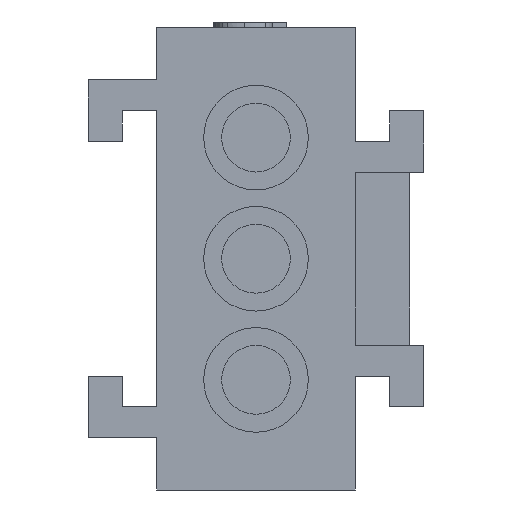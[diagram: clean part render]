
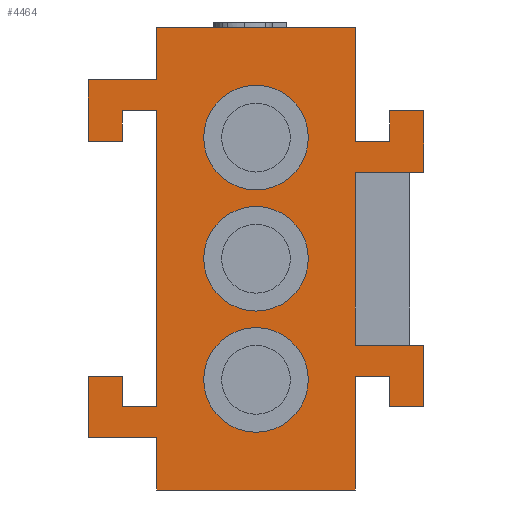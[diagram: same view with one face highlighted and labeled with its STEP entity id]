
A CAD part, front view. The second image highlights one B-rep face of the part: STEP entity #4464.
In plain terms, the highlighted planar face has unit normal (0, -1, 0).
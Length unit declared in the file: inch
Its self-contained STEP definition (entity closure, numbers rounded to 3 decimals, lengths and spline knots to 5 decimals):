
#342=FACE_BOUND('',#966,.T.);
#343=FACE_BOUND('',#967,.T.);
#344=FACE_BOUND('',#968,.T.);
#486=PLANE('',#4719);
#711=FACE_OUTER_BOUND('',#965,.T.);
#965=EDGE_LOOP('',(#4102,#4103,#4104,#4105,#4106,#4107,#4108,#4109,#4110,
#4111,#4112,#4113,#4114,#4115,#4116,#4117,#4118,#4119,#4120,#4121,#4122,
#4123,#4124,#4125,#4126,#4127,#4128,#4129));
#966=EDGE_LOOP('',(#4130));
#967=EDGE_LOOP('',(#4131));
#968=EDGE_LOOP('',(#4132));
#1236=LINE('',#7492,#1698);
#1249=LINE('',#7529,#1711);
#1253=LINE('',#7536,#1715);
#1254=LINE('',#7540,#1716);
#1258=LINE('',#7548,#1720);
#1261=LINE('',#7554,#1723);
#1264=LINE('',#7561,#1726);
#1268=LINE('',#7568,#1730);
#1271=LINE('',#7574,#1733);
#1274=LINE('',#7580,#1736);
#1277=LINE('',#7586,#1739);
#1280=LINE('',#7592,#1742);
#1289=LINE('',#7610,#1751);
#1293=LINE('',#7617,#1755);
#1296=LINE('',#7622,#1758);
#1297=LINE('',#7625,#1759);
#1300=LINE('',#7630,#1762);
#1302=LINE('',#7635,#1764);
#1306=LINE('',#7643,#1768);
#1309=LINE('',#7648,#1771);
#1311=LINE('',#7652,#1773);
#1314=LINE('',#7657,#1776);
#1316=LINE('',#7663,#1778);
#1319=LINE('',#7668,#1781);
#1321=LINE('',#7672,#1783);
#1323=LINE('',#7675,#1785);
#1324=LINE('',#7677,#1786);
#1422=LINE('',#7875,#1884);
#1698=VECTOR('',#5175,0.3937);
#1711=VECTOR('',#5214,0.3937);
#1715=VECTOR('',#5220,0.3937);
#1716=VECTOR('',#5223,0.3937);
#1720=VECTOR('',#5229,0.3937);
#1723=VECTOR('',#5234,0.3937);
#1726=VECTOR('',#5239,0.3937);
#1730=VECTOR('',#5245,0.3937);
#1733=VECTOR('',#5252,0.3937);
#1736=VECTOR('',#5257,0.3937);
#1739=VECTOR('',#5262,0.3937);
#1742=VECTOR('',#5267,0.3937);
#1751=VECTOR('',#5280,0.3937);
#1755=VECTOR('',#5284,0.3937);
#1758=VECTOR('',#5287,0.3937);
#1759=VECTOR('',#5290,0.3937);
#1762=VECTOR('',#5293,0.3937);
#1764=VECTOR('',#5297,0.3937);
#1768=VECTOR('',#5303,0.3937);
#1771=VECTOR('',#5308,0.3937);
#1773=VECTOR('',#5312,0.3937);
#1776=VECTOR('',#5317,0.3937);
#1778=VECTOR('',#5323,0.3937);
#1781=VECTOR('',#5328,0.3937);
#1783=VECTOR('',#5332,0.3937);
#1785=VECTOR('',#5336,0.3937);
#1786=VECTOR('',#5339,0.3937);
#1884=VECTOR('',#5509,0.3937);
#1918=CIRCLE('',#4563,0.095);
#1921=CIRCLE('',#4568,0.095);
#1924=CIRCLE('',#4573,0.095);
#1938=VERTEX_POINT('',#5635);
#1941=VERTEX_POINT('',#5644);
#1944=VERTEX_POINT('',#5653);
#2196=VERTEX_POINT('',#7489);
#2197=VERTEX_POINT('',#7491);
#2207=VERTEX_POINT('',#7526);
#2208=VERTEX_POINT('',#7528);
#2210=VERTEX_POINT('',#7534);
#2211=VERTEX_POINT('',#7538);
#2212=VERTEX_POINT('',#7539);
#2215=VERTEX_POINT('',#7547);
#2217=VERTEX_POINT('',#7553);
#2219=VERTEX_POINT('',#7559);
#2220=VERTEX_POINT('',#7560);
#2223=VERTEX_POINT('',#7573);
#2225=VERTEX_POINT('',#7579);
#2227=VERTEX_POINT('',#7585);
#2229=VERTEX_POINT('',#7591);
#2236=VERTEX_POINT('',#7609);
#2239=VERTEX_POINT('',#7615);
#2241=VERTEX_POINT('',#7620);
#2242=VERTEX_POINT('',#7624);
#2244=VERTEX_POINT('',#7629);
#2245=VERTEX_POINT('',#7633);
#2246=VERTEX_POINT('',#7634);
#2249=VERTEX_POINT('',#7642);
#2251=VERTEX_POINT('',#7651);
#2253=VERTEX_POINT('',#7661);
#2254=VERTEX_POINT('',#7662);
#2255=VERTEX_POINT('',#7667);
#2256=VERTEX_POINT('',#7671);
#2355=EDGE_CURVE('',#1938,#1938,#1918,.T.);
#2359=EDGE_CURVE('',#1941,#1941,#1921,.T.);
#2363=EDGE_CURVE('',#1944,#1944,#1924,.T.);
#2739=EDGE_CURVE('',#2196,#2197,#1236,.T.);
#2755=EDGE_CURVE('',#2208,#2207,#1249,.T.);
#2759=EDGE_CURVE('',#2210,#2207,#1253,.T.);
#2760=EDGE_CURVE('',#2211,#2212,#1254,.T.);
#2764=EDGE_CURVE('',#2215,#2211,#1258,.T.);
#2767=EDGE_CURVE('',#2217,#2215,#1261,.T.);
#2770=EDGE_CURVE('',#2219,#2220,#1264,.T.);
#2774=EDGE_CURVE('',#2212,#2219,#1268,.T.);
#2777=EDGE_CURVE('',#2223,#2208,#1271,.T.);
#2780=EDGE_CURVE('',#2225,#2223,#1274,.T.);
#2783=EDGE_CURVE('',#2227,#2225,#1277,.T.);
#2786=EDGE_CURVE('',#2229,#2227,#1280,.T.);
#2795=EDGE_CURVE('',#2217,#2236,#1289,.T.);
#2799=EDGE_CURVE('',#2239,#2196,#1293,.T.);
#2802=EDGE_CURVE('',#2241,#2220,#1296,.T.);
#2803=EDGE_CURVE('',#2229,#2242,#1297,.T.);
#2806=EDGE_CURVE('',#2197,#2244,#1300,.T.);
#2808=EDGE_CURVE('',#2245,#2246,#1302,.T.);
#2812=EDGE_CURVE('',#2249,#2245,#1306,.T.);
#2815=EDGE_CURVE('',#2236,#2249,#1309,.T.);
#2817=EDGE_CURVE('',#2251,#2239,#1311,.T.);
#2820=EDGE_CURVE('',#2246,#2251,#1314,.T.);
#2822=EDGE_CURVE('',#2253,#2254,#1316,.T.);
#2825=EDGE_CURVE('',#2255,#2253,#1319,.T.);
#2827=EDGE_CURVE('',#2256,#2255,#1321,.T.);
#2829=EDGE_CURVE('',#2244,#2256,#1323,.T.);
#2830=EDGE_CURVE('',#2254,#2210,#1324,.T.);
#2928=EDGE_CURVE('',#2242,#2241,#1422,.T.);
#4102=ORIENTED_EDGE('',*,*,#2739,.F.);
#4103=ORIENTED_EDGE('',*,*,#2799,.F.);
#4104=ORIENTED_EDGE('',*,*,#2817,.F.);
#4105=ORIENTED_EDGE('',*,*,#2820,.F.);
#4106=ORIENTED_EDGE('',*,*,#2808,.F.);
#4107=ORIENTED_EDGE('',*,*,#2812,.F.);
#4108=ORIENTED_EDGE('',*,*,#2815,.F.);
#4109=ORIENTED_EDGE('',*,*,#2795,.F.);
#4110=ORIENTED_EDGE('',*,*,#2767,.T.);
#4111=ORIENTED_EDGE('',*,*,#2764,.T.);
#4112=ORIENTED_EDGE('',*,*,#2760,.T.);
#4113=ORIENTED_EDGE('',*,*,#2774,.T.);
#4114=ORIENTED_EDGE('',*,*,#2770,.T.);
#4115=ORIENTED_EDGE('',*,*,#2802,.F.);
#4116=ORIENTED_EDGE('',*,*,#2928,.F.);
#4117=ORIENTED_EDGE('',*,*,#2803,.F.);
#4118=ORIENTED_EDGE('',*,*,#2786,.T.);
#4119=ORIENTED_EDGE('',*,*,#2783,.T.);
#4120=ORIENTED_EDGE('',*,*,#2780,.T.);
#4121=ORIENTED_EDGE('',*,*,#2777,.T.);
#4122=ORIENTED_EDGE('',*,*,#2755,.T.);
#4123=ORIENTED_EDGE('',*,*,#2759,.F.);
#4124=ORIENTED_EDGE('',*,*,#2830,.F.);
#4125=ORIENTED_EDGE('',*,*,#2822,.F.);
#4126=ORIENTED_EDGE('',*,*,#2825,.F.);
#4127=ORIENTED_EDGE('',*,*,#2827,.F.);
#4128=ORIENTED_EDGE('',*,*,#2829,.F.);
#4129=ORIENTED_EDGE('',*,*,#2806,.F.);
#4130=ORIENTED_EDGE('',*,*,#2355,.T.);
#4131=ORIENTED_EDGE('',*,*,#2359,.T.);
#4132=ORIENTED_EDGE('',*,*,#2363,.T.);
#4464=ADVANCED_FACE('',(#711,#342,#343,#344),#486,.T.);
#4563=AXIS2_PLACEMENT_3D('',#5637,#4771,#4772);
#4568=AXIS2_PLACEMENT_3D('',#5646,#4782,#4783);
#4573=AXIS2_PLACEMENT_3D('',#5655,#4793,#4794);
#4719=AXIS2_PLACEMENT_3D('',#7877,#5512,#5513);
#4771=DIRECTION('center_axis',(0.,1.,0.));
#4772=DIRECTION('ref_axis',(-1.,0.,0.));
#4782=DIRECTION('center_axis',(0.,1.,0.));
#4783=DIRECTION('ref_axis',(-1.,0.,0.));
#4793=DIRECTION('center_axis',(0.,1.,0.));
#4794=DIRECTION('ref_axis',(-1.,0.,0.));
#5175=DIRECTION('',(1.,0.,0.));
#5214=DIRECTION('',(-1.,0.,0.));
#5220=DIRECTION('',(0.,0.,-1.));
#5223=DIRECTION('',(-1.,0.,0.));
#5229=DIRECTION('',(0.,0.,1.));
#5234=DIRECTION('',(-1.,0.,0.));
#5239=DIRECTION('',(1.,0.,0.));
#5245=DIRECTION('',(0.,0.,-1.));
#5252=DIRECTION('',(0.,0.,1.));
#5257=DIRECTION('',(1.,0.,0.));
#5262=DIRECTION('',(0.,0.,-1.));
#5267=DIRECTION('',(1.,0.,0.));
#5280=DIRECTION('',(0.,0.,1.));
#5284=DIRECTION('',(0.,0.,1.));
#5287=DIRECTION('',(0.,0.,1.));
#5290=DIRECTION('',(0.,0.,-1.));
#5293=DIRECTION('',(0.,0.,-1.));
#5297=DIRECTION('',(-1.,0.,0.));
#5303=DIRECTION('',(0.,0.,-1.));
#5308=DIRECTION('',(-1.,0.,0.));
#5312=DIRECTION('',(1.,0.,0.));
#5317=DIRECTION('',(0.,0.,1.));
#5323=DIRECTION('',(0.,0.,-1.));
#5328=DIRECTION('',(1.,0.,0.));
#5332=DIRECTION('',(0.,0.,1.));
#5336=DIRECTION('',(1.,0.,0.));
#5339=DIRECTION('',(-1.,0.,0.));
#5509=DIRECTION('',(-1.,0.,0.));
#5512=DIRECTION('center_axis',(0.,-1.,0.));
#5513=DIRECTION('ref_axis',(0.,0.,-1.));
#5635=CARTESIAN_POINT('',(0.095,0.,0.));
#5637=CARTESIAN_POINT('Origin',(0.,0.,0.));
#5644=CARTESIAN_POINT('',(0.095,0.,0.22));
#5646=CARTESIAN_POINT('Origin',(0.,0.,0.22));
#5653=CARTESIAN_POINT('',(0.095,0.,-0.22));
#5655=CARTESIAN_POINT('Origin',(0.,0.,-0.22));
#7489=CARTESIAN_POINT('',(-0.18,0.,0.42));
#7491=CARTESIAN_POINT('',(0.18,0.,0.42));
#7492=CARTESIAN_POINT('',(-0.18,0.,0.42));
#7526=CARTESIAN_POINT('',(0.18,0.,-0.157));
#7528=CARTESIAN_POINT('',(0.305,0.,-0.157));
#7529=CARTESIAN_POINT('',(0.305,0.,-0.157));
#7534=CARTESIAN_POINT('',(0.18,0.,0.157));
#7536=CARTESIAN_POINT('',(0.18,0.,0.42));
#7538=CARTESIAN_POINT('',(-0.2425,0.,-0.213));
#7539=CARTESIAN_POINT('',(-0.305,0.,-0.213));
#7540=CARTESIAN_POINT('',(-0.2425,0.,-0.213));
#7547=CARTESIAN_POINT('',(-0.2425,0.,-0.269));
#7548=CARTESIAN_POINT('',(-0.2425,0.,-0.269));
#7553=CARTESIAN_POINT('',(-0.18,0.,-0.269));
#7554=CARTESIAN_POINT('',(-0.18,0.,-0.269));
#7559=CARTESIAN_POINT('',(-0.305,0.,-0.325));
#7560=CARTESIAN_POINT('',(-0.18,0.,-0.325));
#7561=CARTESIAN_POINT('',(-0.305,0.,-0.325));
#7568=CARTESIAN_POINT('',(-0.305,0.,-0.213));
#7573=CARTESIAN_POINT('',(0.305,0.,-0.269));
#7574=CARTESIAN_POINT('',(0.305,0.,-0.269));
#7579=CARTESIAN_POINT('',(0.2425,0.,-0.269));
#7580=CARTESIAN_POINT('',(0.2425,0.,-0.269));
#7585=CARTESIAN_POINT('',(0.2425,0.,-0.213));
#7586=CARTESIAN_POINT('',(0.2425,0.,-0.213));
#7591=CARTESIAN_POINT('',(0.18,0.,-0.213));
#7592=CARTESIAN_POINT('',(0.18,0.,-0.213));
#7609=CARTESIAN_POINT('',(-0.18,0.,0.269));
#7610=CARTESIAN_POINT('',(-0.18,0.,-0.42));
#7615=CARTESIAN_POINT('',(-0.18,0.,0.325));
#7617=CARTESIAN_POINT('',(-0.18,0.,-0.42));
#7620=CARTESIAN_POINT('',(-0.18,0.,-0.42));
#7622=CARTESIAN_POINT('',(-0.18,0.,-0.42));
#7624=CARTESIAN_POINT('',(0.18,0.,-0.42));
#7625=CARTESIAN_POINT('',(0.18,0.,0.42));
#7629=CARTESIAN_POINT('',(0.18,0.,0.213));
#7630=CARTESIAN_POINT('',(0.18,0.,0.42));
#7633=CARTESIAN_POINT('',(-0.2425,0.,0.213));
#7634=CARTESIAN_POINT('',(-0.305,0.,0.213));
#7635=CARTESIAN_POINT('',(-0.2425,0.,0.213));
#7642=CARTESIAN_POINT('',(-0.2425,0.,0.269));
#7643=CARTESIAN_POINT('',(-0.2425,0.,0.269));
#7648=CARTESIAN_POINT('',(-0.18,0.,0.269));
#7651=CARTESIAN_POINT('',(-0.305,0.,0.325));
#7652=CARTESIAN_POINT('',(-0.305,0.,0.325));
#7657=CARTESIAN_POINT('',(-0.305,0.,0.213));
#7661=CARTESIAN_POINT('',(0.305,0.,0.269));
#7662=CARTESIAN_POINT('',(0.305,0.,0.157));
#7663=CARTESIAN_POINT('',(0.305,0.,0.269));
#7667=CARTESIAN_POINT('',(0.2425,0.,0.269));
#7668=CARTESIAN_POINT('',(0.2425,0.,0.269));
#7671=CARTESIAN_POINT('',(0.2425,0.,0.213));
#7672=CARTESIAN_POINT('',(0.2425,0.,0.213));
#7675=CARTESIAN_POINT('',(0.18,0.,0.213));
#7677=CARTESIAN_POINT('',(0.305,0.,0.157));
#7875=CARTESIAN_POINT('',(0.18,0.,-0.42));
#7877=CARTESIAN_POINT('Origin',(0.,0.,0.));
